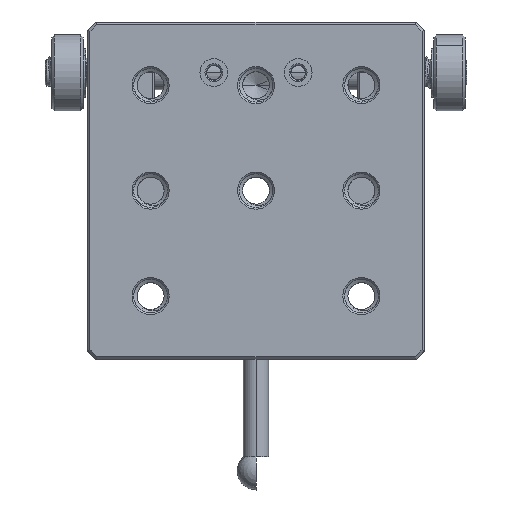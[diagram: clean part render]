
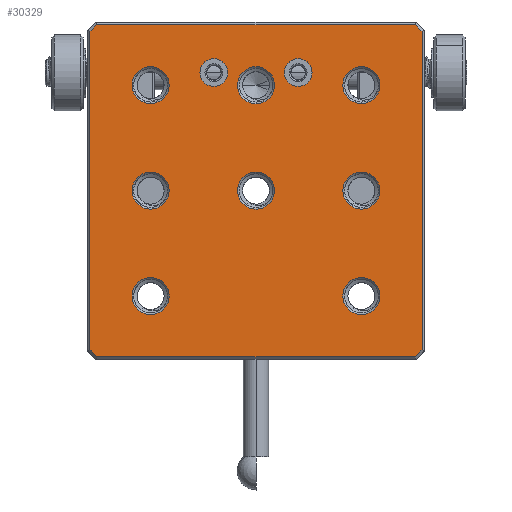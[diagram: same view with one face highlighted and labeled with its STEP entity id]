
A CAD part, top view. The second image highlights one B-rep face of the part: STEP entity #30329.
In plain terms, the highlighted planar face has unit normal (0, 0, 1).
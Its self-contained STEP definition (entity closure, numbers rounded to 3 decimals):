
#15926=DIRECTION('',(0.,-1.,0.));
#15927=VECTOR('',#15926,37.751);
#15928=CARTESIAN_POINT('',(-19.7,-1.124,0.));
#15929=LINE('',#15928,#15927);
#15930=DIRECTION('',(-0.707,-0.707,0.));
#15931=VECTOR('',#15930,1.166);
#15932=CARTESIAN_POINT('',(-18.876,-0.3,0.));
#15933=LINE('',#15932,#15931);
#15934=DIRECTION('',(-1.,0.,0.));
#15935=VECTOR('',#15934,37.751);
#15936=CARTESIAN_POINT('',(18.876,-0.3,0.));
#15937=LINE('',#15936,#15935);
#15938=DIRECTION('',(-0.707,0.707,0.));
#15939=VECTOR('',#15938,1.166);
#15940=CARTESIAN_POINT('',(19.7,-1.124,0.));
#15941=LINE('',#15940,#15939);
#15942=DIRECTION('',(0.,1.,0.));
#15943=VECTOR('',#15942,37.751);
#15944=CARTESIAN_POINT('',(19.7,-38.876,0.));
#15945=LINE('',#15944,#15943);
#15946=DIRECTION('',(0.707,0.707,0.));
#15947=VECTOR('',#15946,1.166);
#15948=CARTESIAN_POINT('',(18.876,-39.7,0.));
#15949=LINE('',#15948,#15947);
#15950=DIRECTION('',(1.,0.,0.));
#15951=VECTOR('',#15950,37.751);
#15952=CARTESIAN_POINT('',(-18.876,-39.7,0.));
#15953=LINE('',#15952,#15951);
#15954=DIRECTION('',(0.707,-0.707,0.));
#15955=VECTOR('',#15954,1.166);
#15956=CARTESIAN_POINT('',(-19.7,-38.876,0.));
#15957=LINE('',#15956,#15955);
#15958=CARTESIAN_POINT('',(5.,-6.,0.));
#15959=DIRECTION('',(0.,0.,-1.));
#15960=DIRECTION('',(1.,0.,0.));
#15961=AXIS2_PLACEMENT_3D('',#15958,#15959,#15960);
#15963=CARTESIAN_POINT('',(5.,-6.,0.));
#15964=DIRECTION('',(0.,0.,-1.));
#15965=DIRECTION('',(-1.,0.,0.));
#15966=AXIS2_PLACEMENT_3D('',#15963,#15964,#15965);
#15968=CARTESIAN_POINT('',(-5.,-6.,0.));
#15969=DIRECTION('',(0.,0.,-1.));
#15970=DIRECTION('',(1.,0.,0.));
#15971=AXIS2_PLACEMENT_3D('',#15968,#15969,#15970);
#15973=CARTESIAN_POINT('',(-5.,-6.,0.));
#15974=DIRECTION('',(0.,0.,-1.));
#15975=DIRECTION('',(-1.,0.,0.));
#15976=AXIS2_PLACEMENT_3D('',#15973,#15974,#15975);
#15978=CARTESIAN_POINT('',(12.5,-7.5,0.));
#15979=DIRECTION('',(0.,0.,-1.));
#15980=DIRECTION('',(1.,0.,0.));
#15981=AXIS2_PLACEMENT_3D('',#15978,#15979,#15980);
#15983=CARTESIAN_POINT('',(12.5,-7.5,0.));
#15984=DIRECTION('',(0.,0.,-1.));
#15985=DIRECTION('',(-1.,0.,0.));
#15986=AXIS2_PLACEMENT_3D('',#15983,#15984,#15985);
#15988=CARTESIAN_POINT('',(12.5,-20.,0.));
#15989=DIRECTION('',(0.,0.,-1.));
#15990=DIRECTION('',(1.,0.,0.));
#15991=AXIS2_PLACEMENT_3D('',#15988,#15989,#15990);
#15993=CARTESIAN_POINT('',(12.5,-20.,0.));
#15994=DIRECTION('',(0.,0.,-1.));
#15995=DIRECTION('',(-1.,0.,0.));
#15996=AXIS2_PLACEMENT_3D('',#15993,#15994,#15995);
#15998=CARTESIAN_POINT('',(12.5,-32.5,0.));
#15999=DIRECTION('',(0.,0.,-1.));
#16000=DIRECTION('',(1.,0.,0.));
#16001=AXIS2_PLACEMENT_3D('',#15998,#15999,#16000);
#16003=CARTESIAN_POINT('',(12.5,-32.5,0.));
#16004=DIRECTION('',(0.,0.,-1.));
#16005=DIRECTION('',(-1.,0.,0.));
#16006=AXIS2_PLACEMENT_3D('',#16003,#16004,#16005);
#16008=CARTESIAN_POINT('',(0.,-20.,0.));
#16009=DIRECTION('',(0.,0.,-1.));
#16010=DIRECTION('',(1.,0.,0.));
#16011=AXIS2_PLACEMENT_3D('',#16008,#16009,#16010);
#16013=CARTESIAN_POINT('',(0.,-20.,0.));
#16014=DIRECTION('',(0.,0.,-1.));
#16015=DIRECTION('',(-1.,0.,0.));
#16016=AXIS2_PLACEMENT_3D('',#16013,#16014,#16015);
#16018=CARTESIAN_POINT('',(-12.5,-32.5,0.));
#16019=DIRECTION('',(0.,0.,-1.));
#16020=DIRECTION('',(1.,0.,0.));
#16021=AXIS2_PLACEMENT_3D('',#16018,#16019,#16020);
#16023=CARTESIAN_POINT('',(-12.5,-32.5,0.));
#16024=DIRECTION('',(0.,0.,-1.));
#16025=DIRECTION('',(-1.,0.,0.));
#16026=AXIS2_PLACEMENT_3D('',#16023,#16024,#16025);
#16028=CARTESIAN_POINT('',(-12.5,-20.,0.));
#16029=DIRECTION('',(0.,0.,-1.));
#16030=DIRECTION('',(1.,0.,0.));
#16031=AXIS2_PLACEMENT_3D('',#16028,#16029,#16030);
#16033=CARTESIAN_POINT('',(-12.5,-20.,0.));
#16034=DIRECTION('',(0.,0.,-1.));
#16035=DIRECTION('',(-1.,0.,0.));
#16036=AXIS2_PLACEMENT_3D('',#16033,#16034,#16035);
#16038=CARTESIAN_POINT('',(-12.5,-7.5,0.));
#16039=DIRECTION('',(0.,0.,-1.));
#16040=DIRECTION('',(-1.,0.,0.));
#16041=AXIS2_PLACEMENT_3D('',#16038,#16039,#16040);
#16043=CARTESIAN_POINT('',(-12.5,-7.5,0.));
#16044=DIRECTION('',(0.,0.,-1.));
#16045=DIRECTION('',(1.,0.,0.));
#16046=AXIS2_PLACEMENT_3D('',#16043,#16044,#16045);
#16048=CARTESIAN_POINT('',(0.,-7.5,0.));
#16049=DIRECTION('',(0.,0.,-1.));
#16050=DIRECTION('',(-1.,0.,0.));
#16051=AXIS2_PLACEMENT_3D('',#16048,#16049,#16050);
#16053=CARTESIAN_POINT('',(0.,-7.5,0.));
#16054=DIRECTION('',(0.,0.,-1.));
#16055=DIRECTION('',(1.,0.,0.));
#16056=AXIS2_PLACEMENT_3D('',#16053,#16054,#16055);
#27196=CARTESIAN_POINT('',(-19.7,-1.124,0.));
#27197=CARTESIAN_POINT('',(-19.7,-38.876,0.));
#27198=VERTEX_POINT('',#27196);
#27199=VERTEX_POINT('',#27197);
#27200=CARTESIAN_POINT('',(-18.876,-39.7,0.));
#27201=VERTEX_POINT('',#27200);
#27202=CARTESIAN_POINT('',(18.876,-39.7,0.));
#27203=VERTEX_POINT('',#27202);
#27204=CARTESIAN_POINT('',(19.7,-38.876,0.));
#27205=VERTEX_POINT('',#27204);
#27206=CARTESIAN_POINT('',(19.7,-1.124,0.));
#27207=VERTEX_POINT('',#27206);
#27208=CARTESIAN_POINT('',(18.876,-0.3,0.));
#27209=VERTEX_POINT('',#27208);
#27210=CARTESIAN_POINT('',(-18.876,-0.3,0.));
#27211=VERTEX_POINT('',#27210);
#27238=CARTESIAN_POINT('',(3.35,-6.,0.));
#27240=VERTEX_POINT('',#27238);
#27242=CARTESIAN_POINT('',(6.65,-6.,0.));
#27244=VERTEX_POINT('',#27242);
#27250=CARTESIAN_POINT('',(-6.65,-6.,0.));
#27252=VERTEX_POINT('',#27250);
#27254=CARTESIAN_POINT('',(-3.35,-6.,0.));
#27256=VERTEX_POINT('',#27254);
#27634=CARTESIAN_POINT('',(14.7,-7.5,0.));
#27635=CARTESIAN_POINT('',(10.3,-7.5,0.));
#27636=VERTEX_POINT('',#27634);
#27637=VERTEX_POINT('',#27635);
#27642=CARTESIAN_POINT('',(14.7,-20.,0.));
#27643=CARTESIAN_POINT('',(10.3,-20.,0.));
#27644=VERTEX_POINT('',#27642);
#27645=VERTEX_POINT('',#27643);
#27650=CARTESIAN_POINT('',(14.7,-32.5,0.));
#27651=CARTESIAN_POINT('',(10.3,-32.5,0.));
#27652=VERTEX_POINT('',#27650);
#27653=VERTEX_POINT('',#27651);
#27658=CARTESIAN_POINT('',(2.2,-20.,0.));
#27659=CARTESIAN_POINT('',(-2.2,-20.,0.));
#27660=VERTEX_POINT('',#27658);
#27661=VERTEX_POINT('',#27659);
#27666=CARTESIAN_POINT('',(-10.3,-32.5,0.));
#27667=CARTESIAN_POINT('',(-14.7,-32.5,0.));
#27668=VERTEX_POINT('',#27666);
#27669=VERTEX_POINT('',#27667);
#27674=CARTESIAN_POINT('',(-10.3,-20.,0.));
#27675=CARTESIAN_POINT('',(-14.7,-20.,0.));
#27676=VERTEX_POINT('',#27674);
#27677=VERTEX_POINT('',#27675);
#27682=CARTESIAN_POINT('',(-14.7,-7.5,0.));
#27683=CARTESIAN_POINT('',(-10.3,-7.5,0.));
#27684=VERTEX_POINT('',#27682);
#27685=VERTEX_POINT('',#27683);
#27690=CARTESIAN_POINT('',(-2.2,-7.5,0.));
#27691=CARTESIAN_POINT('',(2.2,-7.5,0.));
#27692=VERTEX_POINT('',#27690);
#27693=VERTEX_POINT('',#27691);
#30247=CARTESIAN_POINT('',(0.,-20.,0.));
#30248=DIRECTION('',(0.,0.,1.));
#30249=DIRECTION('',(1.,0.,0.));
#30250=AXIS2_PLACEMENT_3D('',#30247,#30248,#30249);
#30251=PLANE('',#30250);
#30253=ORIENTED_EDGE('',*,*,#30252,.F.);
#30255=ORIENTED_EDGE('',*,*,#30254,.F.);
#30257=ORIENTED_EDGE('',*,*,#30256,.F.);
#30259=ORIENTED_EDGE('',*,*,#30258,.F.);
#30261=ORIENTED_EDGE('',*,*,#30260,.F.);
#30263=ORIENTED_EDGE('',*,*,#30262,.F.);
#30265=ORIENTED_EDGE('',*,*,#30264,.F.);
#30267=ORIENTED_EDGE('',*,*,#30266,.F.);
#30268=EDGE_LOOP('',(#30253,#30255,#30257,#30259,#30261,#30263,#30265,#30267));
#30269=FACE_OUTER_BOUND('',#30268,.F.);
#30271=ORIENTED_EDGE('',*,*,#30270,.F.);
#30272=ORIENTED_EDGE('',*,*,#30237,.F.);
#30273=EDGE_LOOP('',(#30271,#30272));
#30274=FACE_BOUND('',#30273,.F.);
#30276=ORIENTED_EDGE('',*,*,#30275,.F.);
#30278=ORIENTED_EDGE('',*,*,#30277,.F.);
#30279=EDGE_LOOP('',(#30276,#30278));
#30280=FACE_BOUND('',#30279,.F.);
#30282=ORIENTED_EDGE('',*,*,#30281,.F.);
#30284=ORIENTED_EDGE('',*,*,#30283,.F.);
#30285=EDGE_LOOP('',(#30282,#30284));
#30286=FACE_BOUND('',#30285,.F.);
#30288=ORIENTED_EDGE('',*,*,#30287,.F.);
#30290=ORIENTED_EDGE('',*,*,#30289,.F.);
#30291=EDGE_LOOP('',(#30288,#30290));
#30292=FACE_BOUND('',#30291,.F.);
#30294=ORIENTED_EDGE('',*,*,#30293,.F.);
#30296=ORIENTED_EDGE('',*,*,#30295,.F.);
#30297=EDGE_LOOP('',(#30294,#30296));
#30298=FACE_BOUND('',#30297,.F.);
#30300=ORIENTED_EDGE('',*,*,#30299,.F.);
#30302=ORIENTED_EDGE('',*,*,#30301,.F.);
#30303=EDGE_LOOP('',(#30300,#30302));
#30304=FACE_BOUND('',#30303,.F.);
#30306=ORIENTED_EDGE('',*,*,#30305,.F.);
#30308=ORIENTED_EDGE('',*,*,#30307,.F.);
#30309=EDGE_LOOP('',(#30306,#30308));
#30310=FACE_BOUND('',#30309,.F.);
#30312=ORIENTED_EDGE('',*,*,#30311,.F.);
#30314=ORIENTED_EDGE('',*,*,#30313,.F.);
#30315=EDGE_LOOP('',(#30312,#30314));
#30316=FACE_BOUND('',#30315,.F.);
#30318=ORIENTED_EDGE('',*,*,#30317,.F.);
#30320=ORIENTED_EDGE('',*,*,#30319,.F.);
#30321=EDGE_LOOP('',(#30318,#30320));
#30322=FACE_BOUND('',#30321,.F.);
#30324=ORIENTED_EDGE('',*,*,#30323,.F.);
#30326=ORIENTED_EDGE('',*,*,#30325,.F.);
#30327=EDGE_LOOP('',(#30324,#30326));
#30328=FACE_BOUND('',#30327,.F.);
#30329=ADVANCED_FACE('',(#30269,#30274,#30280,#30286,#30292,#30298,#30304,
#30310,#30316,#30322,#30328),#30251,.T.);
#15962=CIRCLE('',#15961,1.65);
#15967=CIRCLE('',#15966,1.65);
#15972=CIRCLE('',#15971,1.65);
#15977=CIRCLE('',#15976,1.65);
#15982=CIRCLE('',#15981,2.2);
#15987=CIRCLE('',#15986,2.2);
#15992=CIRCLE('',#15991,2.2);
#15997=CIRCLE('',#15996,2.2);
#16002=CIRCLE('',#16001,2.2);
#16007=CIRCLE('',#16006,2.2);
#16012=CIRCLE('',#16011,2.2);
#16017=CIRCLE('',#16016,2.2);
#16022=CIRCLE('',#16021,2.2);
#16027=CIRCLE('',#16026,2.2);
#16032=CIRCLE('',#16031,2.2);
#16037=CIRCLE('',#16036,2.2);
#16042=CIRCLE('',#16041,2.2);
#16047=CIRCLE('',#16046,2.2);
#16052=CIRCLE('',#16051,2.2);
#16057=CIRCLE('',#16056,2.2);
#30237=EDGE_CURVE('',#27240,#27244,#15967,.T.);
#30252=EDGE_CURVE('',#27198,#27199,#15929,.T.);
#30254=EDGE_CURVE('',#27211,#27198,#15933,.T.);
#30256=EDGE_CURVE('',#27209,#27211,#15937,.T.);
#30258=EDGE_CURVE('',#27207,#27209,#15941,.T.);
#30260=EDGE_CURVE('',#27205,#27207,#15945,.T.);
#30262=EDGE_CURVE('',#27203,#27205,#15949,.T.);
#30264=EDGE_CURVE('',#27201,#27203,#15953,.T.);
#30266=EDGE_CURVE('',#27199,#27201,#15957,.T.);
#30270=EDGE_CURVE('',#27244,#27240,#15962,.T.);
#30275=EDGE_CURVE('',#27256,#27252,#15972,.T.);
#30277=EDGE_CURVE('',#27252,#27256,#15977,.T.);
#30281=EDGE_CURVE('',#27636,#27637,#15982,.T.);
#30283=EDGE_CURVE('',#27637,#27636,#15987,.T.);
#30287=EDGE_CURVE('',#27644,#27645,#15992,.T.);
#30289=EDGE_CURVE('',#27645,#27644,#15997,.T.);
#30293=EDGE_CURVE('',#27652,#27653,#16002,.T.);
#30295=EDGE_CURVE('',#27653,#27652,#16007,.T.);
#30299=EDGE_CURVE('',#27660,#27661,#16012,.T.);
#30301=EDGE_CURVE('',#27661,#27660,#16017,.T.);
#30305=EDGE_CURVE('',#27668,#27669,#16022,.T.);
#30307=EDGE_CURVE('',#27669,#27668,#16027,.T.);
#30311=EDGE_CURVE('',#27676,#27677,#16032,.T.);
#30313=EDGE_CURVE('',#27677,#27676,#16037,.T.);
#30317=EDGE_CURVE('',#27684,#27685,#16042,.T.);
#30319=EDGE_CURVE('',#27685,#27684,#16047,.T.);
#30323=EDGE_CURVE('',#27692,#27693,#16052,.T.);
#30325=EDGE_CURVE('',#27693,#27692,#16057,.T.);
